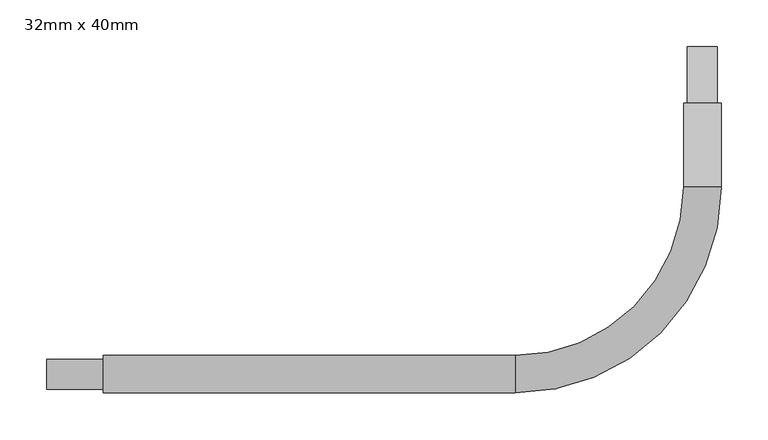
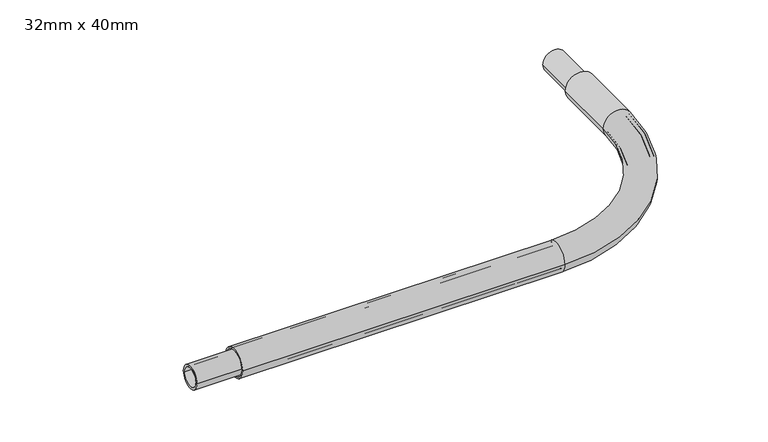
"""IFC4 building model written with IfcOpenShell, lengths in millimetres: pipe fitting geometry, Durapipe_PipeFittings_PLX_CloseFit_HockeyStick : 32mm x 40mm."""

from ifc_helpers import new_model, si_unit, point, frame, origin, place, context, project, spatial, polyline, circle_curve, ellipse_curve, trimmed, source, transform, mapped, element, save
from ifc_brep_helpers import plane_surface, cylinder_surface, revolved_surface, advanced_brep


def pipe_fitting_32mm_x_40mm_faf2e842(model_context):
    return source(origin(), model_context, "Body", "AdvancedBrep", [
        advanced_brep(
        [(-640.0, -20.0, 0.0), (-640.0, 20.0, 0.0), (-640.0, -17.5, 0.0), (-640.0, 17.5, 0.0), (-200.0, -20.0, 0.0), (-200.0, 20.0, 0.0), (-200.0, -17.5, 0.0), (-200.0, 17.5, 0.0), (-20.0, 200.0, 0.0), (20.0, 200.0, 0.0), (-17.5, 200.0, 0.0), (17.5, 200.0, 0.0), (20.0, 290.0, 0.0), (-20.0, 290.0, 0.0), (17.5, 290.0, 0.0), (-17.5, 290.0, 0.0)],
        [
            (0, 1, circle_curve(frame((-640.0, 0.0, 0.0), z_axis=(-1.0, 0.0, 0.0), x_axis=(0.0, 1.0, 0.0)), 20.0)),
            (1, 0, circle_curve(frame((-640.0, 0.0, 0.0), z_axis=(-1.0, 0.0, 0.0), x_axis=(0.0, 1.0, 0.0)), 20.0)),
            (2, 3, circle_curve(frame((-640.0, 0.0, 0.0), z_axis=(1.0, 0.0, 0.0), x_axis=(0.0, 1.0, 0.0)), 17.5)),
            (3, 2, circle_curve(frame((-640.0, 0.0, 0.0), z_axis=(1.0, 0.0, 0.0), x_axis=(0.0, 1.0, 0.0)), 17.5)),
            (0, 4),
            (4, 5, circle_curve(frame((-200.0, 0.0, 0.0), z_axis=(-1.0, 0.0, 0.0), x_axis=(0.0, 1.0, 0.0)), 20.0)),
            (5, 1),
            (5, 4, circle_curve(frame((-200.0, 0.0, 0.0), z_axis=(-1.0, 0.0, 0.0), x_axis=(0.0, 1.0, 0.0)), 20.0)),
            (2, 6),
            (6, 7, circle_curve(frame((-200.0, 0.0, 0.0), z_axis=(1.0, 0.0, 0.0), x_axis=(0.0, 1.0, 0.0)), 17.5)),
            (7, 3),
            (7, 6, circle_curve(frame((-200.0, 0.0, 0.0), z_axis=(1.0, 0.0, 0.0), x_axis=(0.0, 1.0, 0.0)), 17.5)),
            (8, 5, circle_curve(frame((-200.0, 200.0, 0.0), z_axis=(0.0, 0.0, -1.0), x_axis=(0.0, -1.0, 0.0)), 180.0)),
            (4, 9, circle_curve(frame((-200.0, 200.0, 0.0), z_axis=(0.0, 0.0, 1.0), x_axis=(0.0, -1.0, 0.0)), 220.0)),
            (9, 8, circle_curve(frame((0.0, 200.0, 0.0), z_axis=(0.0, -1.0, 0.0), x_axis=(-1.0, 0.0, 0.0)), 20.0)),
            (8, 9, circle_curve(frame((0.0, 200.0, 0.0), z_axis=(0.0, -1.0, 0.0), x_axis=(-1.0, 0.0, 0.0)), 20.0)),
            (10, 7, circle_curve(frame((-200.0, 200.0, 0.0), z_axis=(0.0, 0.0, -1.0), x_axis=(0.0, -1.0, 0.0)), 182.5)),
            (6, 11, circle_curve(frame((-200.0, 200.0, 0.0), z_axis=(0.0, 0.0, 1.0), x_axis=(0.0, -1.0, 0.0)), 217.5)),
            (11, 10, circle_curve(frame((0.0, 200.0, 0.0), z_axis=(0.0, 1.0, 0.0), x_axis=(-1.0, 0.0, 0.0)), 17.5)),
            (10, 11, circle_curve(frame((0.0, 200.0, 0.0), z_axis=(0.0, 1.0, 0.0), x_axis=(-1.0, 0.0, 0.0)), 17.5)),
            (12, 13, circle_curve(frame((0.0, 290.0, 0.0), z_axis=(0.0, 1.0, 0.0), x_axis=(-1.0, 0.0, 0.0)), 20.0)),
            (13, 12, circle_curve(frame((0.0, 290.0, 0.0), z_axis=(0.0, 1.0, 0.0), x_axis=(-1.0, 0.0, 0.0)), 20.0)),
            (14, 15, circle_curve(frame((0.0, 290.0, 0.0), z_axis=(0.0, -1.0, 0.0), x_axis=(-1.0, 0.0, 0.0)), 17.5)),
            (15, 14, circle_curve(frame((0.0, 290.0, 0.0), z_axis=(0.0, -1.0, 0.0), x_axis=(-1.0, 0.0, 0.0)), 17.5)),
            (9, 12),
            (13, 8),
            (11, 14),
            (15, 10),
        ],
        [
            plane_surface(frame((-640.0, 0.0, 0.0), z_axis=(-1.0, 0.0, 0.0), x_axis=(0.0, 0.0, 1.0))),
            cylinder_surface(frame((-640.0, 0.0, 0.0), z_axis=(-1.0, 0.0, 0.0), x_axis=(0.0, 1.0, 0.0)), 20.0),
            revolved_surface(polyline([(-200.0, 17.5, 0.0), (-640.0, 17.5, 0.0)]), (-640.0, 0.0, 0.0), (1.0, 0.0, 0.0)),
            revolved_surface(trimmed(ellipse_curve(frame((-200.0, 0.0, 0.0), z_axis=(-1.0, 0.0, 0.0), x_axis=(0.0, 1.0, 0.0)), 20.0, 20.0), [point((-200.0, -20.0, 0.0))], [point((-200.0, 20.0, 0.0))], True, "CARTESIAN"), (-200.0, 200.0, 0.0), (0.0, 0.0, 1.0)),
            revolved_surface(trimmed(ellipse_curve(frame((-200.0, 0.0, 0.0), z_axis=(-1.0, 0.0, 0.0), x_axis=(0.0, 1.0, 0.0)), 20.0, 20.0), [point((-200.0, 20.0, 0.0))], [point((-200.0, -20.0, 0.0))], True, "CARTESIAN"), (-200.0, 200.0, 0.0), (0.0, 0.0, 1.0)),
            revolved_surface(trimmed(ellipse_curve(frame((-200.0, 0.0, 0.0), z_axis=(1.0, 0.0, 0.0), x_axis=(0.0, 1.0, 0.0)), 17.5, 17.5), [point((-200.0, -17.5, 0.0))], [point((-200.0, 17.5, 0.0))], True, "CARTESIAN"), (-200.0, 200.0, 0.0), (0.0, 0.0, 1.0)),
            revolved_surface(trimmed(ellipse_curve(frame((-200.0, 0.0, 0.0), z_axis=(1.0, 0.0, 0.0), x_axis=(0.0, 1.0, 0.0)), 17.5, 17.5), [point((-200.0, 17.5, 0.0))], [point((-200.0, -17.5, 0.0))], True, "CARTESIAN"), (-200.0, 200.0, 0.0), (0.0, 0.0, 1.0)),
            plane_surface(frame((0.0, 290.0, 0.0), z_axis=(0.0, 1.0, 0.0), x_axis=(0.0, 0.0, 1.0))),
            cylinder_surface(frame((0.0, 200.0, 0.0), z_axis=(0.0, -1.0, 0.0), x_axis=(-1.0, 0.0, 0.0)), 20.0),
            revolved_surface(polyline([(-17.5, 290.0, 0.0), (-17.5, 200.0, 0.0)]), (0.0, 200.0, 0.0), (0.0, 1.0, 0.0)),
        ],
        [
            (0, [[1, 2], [3, 4]]),
            (1, [[-1, 5, 6, 7]]),
            (1, [[-2, -7, 8, -5]]),
            (2, [[-3, 9, 10, 11]]),
            (2, [[-4, -11, 12, -9]]),
            (3, [[13, -6, 14, 15]]),
            (4, [[-14, -8, -13, 16]]),
            (5, [[17, -10, 18, 19]]),
            (6, [[-18, -12, -17, 20]]),
            (7, [[21, 22], [23, 24]]),
            (8, [[-15, 25, -22, 26]]),
            (8, [[-16, -26, -21, -25]]),
            (9, [[-19, 27, -24, 28]]),
            (9, [[-20, -28, -23, -27]]),
        ],
    ),
        advanced_brep(
        [(-16.0, 200.0, 0.0), (-200.0, 16.0, 0.0), (-200.0, -16.0, 0.0), (16.0, 200.0, 0.0), (-700.0, -16.0, 0.0), (-700.0, 16.0, 0.0), (-700.0, -12.75, 0.0), (-700.0, 12.75, 0.0), (16.0, 350.0, 0.0), (-16.0, 350.0, 0.0), (12.75, 350.0, 0.0), (-12.75, 350.0, 0.0), (-200.0, -12.75, 0.0), (-200.0, 12.75, 0.0), (-12.75, 200.0, 0.0), (12.75, 200.0, 0.0)],
        [
            (0, 1, circle_curve(frame((-200.0, 200.0, 0.0), z_axis=(0.0, 0.0, -1.0), x_axis=(0.0, -1.0, 0.0)), 184.0)),
            (1, 2, circle_curve(frame((-200.0, 0.0, 0.0), z_axis=(1.0, 0.0, 0.0), x_axis=(0.0, 1.0, 0.0)), 16.0)),
            (2, 3, circle_curve(frame((-200.0, 200.0, 0.0), z_axis=(0.0, 0.0, 1.0), x_axis=(0.0, -1.0, 0.0)), 216.0)),
            (3, 0, circle_curve(frame((0.0, 200.0, 0.0), z_axis=(0.0, -1.0, 0.0), x_axis=(-1.0, 0.0, 0.0)), 16.0)),
            (2, 1, circle_curve(frame((-200.0, 0.0, 0.0), z_axis=(1.0, 0.0, 0.0), x_axis=(0.0, 1.0, 0.0)), 16.0)),
            (0, 3, circle_curve(frame((0.0, 200.0, 0.0), z_axis=(0.0, -1.0, 0.0), x_axis=(-1.0, 0.0, 0.0)), 16.0)),
            (4, 5, circle_curve(frame((-700.0, 0.0, 0.0), z_axis=(-1.0, 0.0, 0.0), x_axis=(0.0, 1.0, 0.0)), 16.0)),
            (5, 4, circle_curve(frame((-700.0, 0.0, 0.0), z_axis=(-1.0, 0.0, 0.0), x_axis=(0.0, 1.0, 0.0)), 16.0)),
            (6, 7, circle_curve(frame((-700.0, 0.0, 0.0), z_axis=(1.0, 0.0, 0.0), x_axis=(0.0, 1.0, 0.0)), 12.75)),
            (7, 6, circle_curve(frame((-700.0, 0.0, 0.0), z_axis=(1.0, 0.0, 0.0), x_axis=(0.0, 1.0, 0.0)), 12.75)),
            (8, 9, circle_curve(frame((0.0, 350.0, 0.0), z_axis=(0.0, 1.0, 0.0), x_axis=(-1.0, 0.0, 0.0)), 16.0)),
            (9, 8, circle_curve(frame((0.0, 350.0, 0.0), z_axis=(0.0, 1.0, 0.0), x_axis=(-1.0, 0.0, 0.0)), 16.0)),
            (10, 11, circle_curve(frame((0.0, 350.0, 0.0), z_axis=(0.0, -1.0, 0.0), x_axis=(-1.0, 0.0, 0.0)), 12.75)),
            (11, 10, circle_curve(frame((0.0, 350.0, 0.0), z_axis=(0.0, -1.0, 0.0), x_axis=(-1.0, 0.0, 0.0)), 12.75)),
            (4, 2),
            (1, 5),
            (3, 8),
            (9, 0),
            (6, 12),
            (12, 13, circle_curve(frame((-200.0, 0.0, 0.0), z_axis=(1.0, 0.0, 0.0), x_axis=(0.0, 1.0, 0.0)), 12.75)),
            (13, 7),
            (13, 12, circle_curve(frame((-200.0, 0.0, 0.0), z_axis=(1.0, 0.0, 0.0), x_axis=(0.0, 1.0, 0.0)), 12.75)),
            (14, 13, circle_curve(frame((-200.0, 200.0, 0.0), z_axis=(0.0, 0.0, -1.0), x_axis=(0.0, -1.0, 0.0)), 187.25)),
            (12, 15, circle_curve(frame((-200.0, 200.0, 0.0), z_axis=(0.0, 0.0, 1.0), x_axis=(0.0, -1.0, 0.0)), 212.75)),
            (15, 14, circle_curve(frame((0.0, 200.0, 0.0), z_axis=(0.0, 1.0, 0.0), x_axis=(-1.0, 0.0, 0.0)), 12.75)),
            (14, 15, circle_curve(frame((0.0, 200.0, 0.0), z_axis=(0.0, 1.0, 0.0), x_axis=(-1.0, 0.0, 0.0)), 12.75)),
            (15, 10),
            (11, 14),
        ],
        [
            revolved_surface(trimmed(ellipse_curve(frame((-200.0, 0.0, 0.0), z_axis=(-1.0, 0.0, 0.0), x_axis=(0.0, 1.0, 0.0)), 16.0, 16.0), [point((-200.0, -16.0, 0.0))], [point((-200.0, 16.0, 0.0))], True, "CARTESIAN"), (-200.0, 200.0, 0.0), (0.0, 0.0, 1.0)),
            revolved_surface(trimmed(ellipse_curve(frame((-200.0, 0.0, 0.0), z_axis=(-1.0, 0.0, 0.0), x_axis=(0.0, 1.0, 0.0)), 16.0, 16.0), [point((-200.0, 16.0, 0.0))], [point((-200.0, -16.0, 0.0))], True, "CARTESIAN"), (-200.0, 200.0, 0.0), (0.0, 0.0, 1.0)),
            plane_surface(frame((-700.0, 0.0, 0.0), z_axis=(-1.0, 0.0, 0.0), x_axis=(0.0, 0.0, 1.0))),
            plane_surface(frame((0.0, 350.0, 0.0), z_axis=(0.0, 1.0, 0.0), x_axis=(0.0, 0.0, 1.0))),
            cylinder_surface(frame((-700.0, 0.0, 0.0), z_axis=(-1.0, 0.0, 0.0), x_axis=(0.0, 1.0, 0.0)), 16.0),
            cylinder_surface(frame((0.0, 200.0, 0.0), z_axis=(0.0, -1.0, 0.0), x_axis=(-1.0, 0.0, 0.0)), 16.0),
            revolved_surface(polyline([(-200.0, 12.75, 0.0), (-700.0, 12.75, 0.0)]), (-700.0, 0.0, 0.0), (1.0, 0.0, 0.0)),
            revolved_surface(trimmed(ellipse_curve(frame((-200.0, 0.0, 0.0), z_axis=(1.0, 0.0, 0.0), x_axis=(0.0, 1.0, 0.0)), 12.75, 12.75), [point((-200.0, -12.75, 0.0))], [point((-200.0, 12.75, 0.0))], True, "CARTESIAN"), (-200.0, 200.0, 0.0), (0.0, 0.0, 1.0)),
            revolved_surface(trimmed(ellipse_curve(frame((-200.0, 0.0, 0.0), z_axis=(1.0, 0.0, 0.0), x_axis=(0.0, 1.0, 0.0)), 12.75, 12.75), [point((-200.0, 12.75, 0.0))], [point((-200.0, -12.75, 0.0))], True, "CARTESIAN"), (-200.0, 200.0, 0.0), (0.0, 0.0, 1.0)),
            revolved_surface(polyline([(-12.75, 350.0, 0.0), (-12.75, 200.0, 0.0)]), (0.0, 200.0, 0.0), (0.0, 1.0, 0.0)),
        ],
        [
            (0, [[1, 2, 3, 4]]),
            (1, [[-3, 5, -1, 6]]),
            (2, [[7, 8], [9, 10]]),
            (3, [[11, 12], [13, 14]]),
            (4, [[-7, 15, -2, 16]]),
            (4, [[-8, -16, -5, -15]]),
            (5, [[-4, 17, -12, 18]]),
            (5, [[-6, -18, -11, -17]]),
            (6, [[-9, 19, 20, 21]]),
            (6, [[-10, -21, 22, -19]]),
            (7, [[23, -20, 24, 25]]),
            (8, [[-24, -22, -23, 26]]),
            (9, [[-25, 27, -14, 28]]),
            (9, [[-26, -28, -13, -27]]),
        ],
    ),
    ])


if __name__ == "__main__":
    model = new_model("IFC4")
    model_context = context("Model", 3, world=origin())
    ifc_project = project(units=[si_unit("LENGTHUNIT", "METRE", prefix="MILLI")], contexts=[model_context])
    site = spatial("IfcSite", under=ifc_project)
    building = spatial("IfcBuilding", under=site)
    placement = place(None, origin())
    pipe_fitting_32mm_x_40mm_shape = pipe_fitting_32mm_x_40mm_faf2e842(model_context)
    element("IfcPipeFitting", 1, ObjectType="Durapipe_PipeFittings_PLX_CloseFit_HockeyStick : 32mm x 40mm", at=placement, inside=building, context=model_context, shape_type="MappedRepresentation", body=[
        mapped(pipe_fitting_32mm_x_40mm_shape, transform((0.0, 0.0, 0.0), x_axis=(1.0, 0.0, 0.0), y_axis=(0.0, 1.0, 0.0), z_axis=(0.0, 0.0, 1.0))),
    ])
    save(model, "model.ifc")
